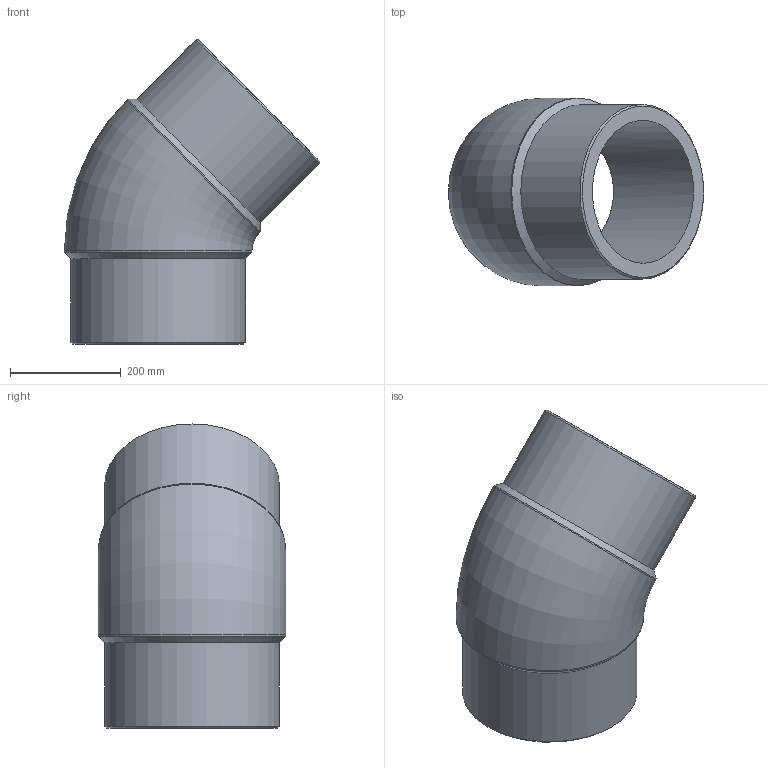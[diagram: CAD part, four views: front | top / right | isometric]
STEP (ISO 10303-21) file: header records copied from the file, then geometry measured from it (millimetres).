
FILE_DESCRIPTION(/* description */ ('Unknown'),/* implementation_level */ '2;1');
FILE_NAME(/* name */ 'G4P315C',/* time_stamp */ '2022-01-19T15:23:45+01:00',/* author */ ('Unknown'),/* organization */ ('Unknown'),/* preprocessor_version */ 'ST-DEVELOPER v18.1',/* originating_system */ 'Solid Edge',/* authorisation */ 'Unknown');
FILE_SCHEMA (('AUTOMOTIVE_DESIGN {1 0 10303 214 3 1 1}'));
Length unit declared in the file: millimetre
Products named in the file (1): G4P315C
Bounding box: 459.97 x 338 x 547.97 mm (x, y, z)
Volume: 15239726.3 mm3; surface area: 979757.1 mm2
Topology: 1 solids, 1 shells, 14 faces, 34 edges, 22 vertices
Faces by surface type: cylinder 6, cone 4, plane 2, torus 2
Full cylindrical faces by diameter (mm): 257.8 x2, 315 x2, 338 x2
Entity records: 370 total; most frequent: CARTESIAN_POINT 70, DIRECTION 60, ORIENTED_EDGE 38, AXIS2_PLACEMENT_3D 30, EDGE_LOOP 27, FACE_BOUND 27, EDGE_CURVE 19, VERTEX_POINT 18
